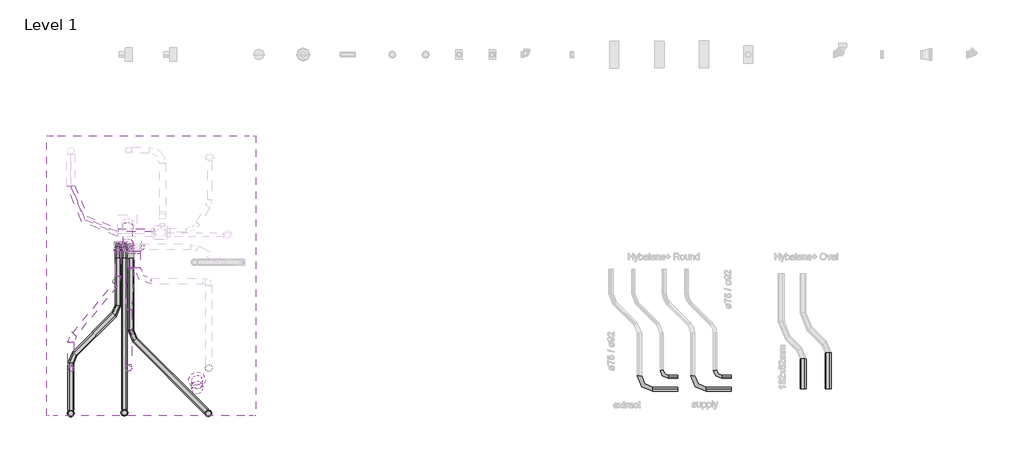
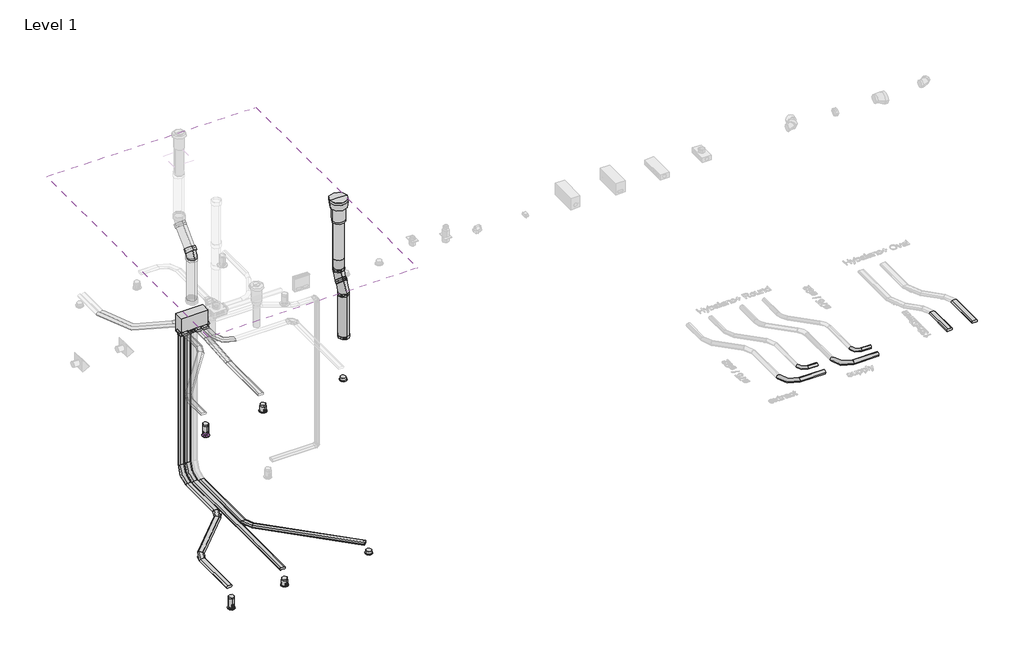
# One storey, part 1 of 5: 40 duct segments, 21 duct fittings, 7 air terminals, 2 coverings, 1 roof.
"""IFC4 building model written with IfcOpenShell, lengths in millimetres."""

from ifc_helpers import new_model, si_unit, point, frame, frame_2d, origin, place, context, project, spatial, polyline, circle_curve, trimmed, segment, composite_curve, outline, extrude, transform, mapped, element, save
from components import air_terminal_9fb1d9b7, air_terminal_ad92f96e, air_terminal_e25ee4aa, covering_845dcc57, duct_fitting_69f5a1d6, duct_fitting_80feda44, duct_fitting_766c4896, duct_fitting_af19edac, duct_fitting_93765f70, duct_fitting_1c3751d9, duct_fitting_ac704c44, duct_fitting_132x52_e1013fcc, duct_fitting_132x52_95183a23, duct_segment_69b1a090, duct_segment_885000f4, duct_segment_79d2183e, duct_segment_19c8db6e, duct_segment_10250bbd, duct_segment_4a810492, supply_132x52_blue_63ce6e41, supply_132x52_blue_f4b112b8, supply_132x52_blue_a913f8ed, supply_132x52_blue_7206dcc0, extract_132x52_red_0ccfaded

model = new_model("IFC4")

# Units and contexts
model_context = context("Model", 3, world=origin())
ifc_project = project(units=[si_unit("LENGTHUNIT", "METRE", prefix="MILLI")], contexts=[model_context])

# Site, building, storey
site = spatial("IfcSite", under=ifc_project)
building = spatial("IfcBuilding", under=site)
storey = spatial("IfcBuildingStorey", under=building, Name="Level 1", Elevation=0.0)

# Air terminals
placement = place(None, origin())
air_terminal_shape = air_terminal_9fb1d9b7(model_context)
element("IfcAirTerminal", 1, ObjectType="NLRS_57_AIR_WPB_supply air valve_M&G : Conus", at=placement, inside=storey, context=model_context, shape_type="MappedRepresentation", body=[
    mapped(air_terminal_shape, transform((-14618.4693878, -229.0662056, 3219.6345013), x_axis=(1.0, 0.0, 0.0), y_axis=(0.0, 1.0, 0.0), z_axis=(0.0, 0.0, 1.0))),
])
element("IfcAirTerminal", 2, ObjectType="NLRS_57_AIR_WPB_supply air valve_M&G : Conus", at=placement, inside=storey, context=model_context, shape_type="MappedRepresentation", body=[
    mapped(air_terminal_shape, transform((-16418.4693878, -229.0662056, 3105.7191817), x_axis=(1.0, 0.0, 0.0), y_axis=(0.0, 1.0, 0.0), z_axis=(0.0, 0.0, 1.0))),
])
element("IfcAirTerminal", 3, ObjectType="NLRS_57_AIR_WPB_supply air valve_M&G : Conus", at=placement, inside=storey, context=model_context, shape_type="MappedRepresentation", body=[
    mapped(air_terminal_shape, transform((-14625.2791551, -1245.5064382, -282.0), x_axis=(1.0, 0.0, 0.0), y_axis=(0.0, 1.0, 0.0), z_axis=(0.0, 0.0, 1.0))),
])
element("IfcAirTerminal", 4, ObjectType="NLRS_57_AIR_WPB_supply air valve_M&G : Conus", at=placement, inside=storey, context=model_context, shape_type="MappedRepresentation", body=[
    mapped(air_terminal_shape, transform((-16511.4693878, -1229.0662056, -388.9153196), x_axis=(1.0, 0.0, 0.0), y_axis=(0.0, 1.0, 0.0), z_axis=(0.0, 0.0, 1.0))),
])
air_terminal_2_shape = air_terminal_ad92f96e(model_context)
element("IfcAirTerminal", 5, ObjectType="NLRS_57_AIR_WPB_supply air valve_M&G : Conus", at=placement, inside=storey, context=model_context, shape_type="MappedRepresentation", body=[
    mapped(air_terminal_2_shape, transform((-17715.4983661, -245.8142705, 3028.0137664), x_axis=(1.0, 0.0, 0.0), y_axis=(0.0, 1.0, 0.0), z_axis=(0.0, 0.0, 1.0))),
])
element("IfcAirTerminal", 6, ObjectType="NLRS_57_AIR_WPB_supply air valve_M&G : Conus", at=placement, inside=storey, context=model_context, shape_type="MappedRepresentation", body=[
    mapped(air_terminal_2_shape, transform((-17715.4983661, -1245.8142705, -466.6207349), x_axis=(1.0, 0.0, 0.0), y_axis=(0.0, 1.0, 0.0), z_axis=(0.0, 0.0, 1.0))),
])
air_terminal_3_shape = air_terminal_e25ee4aa(model_context)
element("IfcAirTerminal", 7, ObjectType="NLRS_57_AIR_WPB_EASYAIR roof ventilation terminals_M&G : EPS Black, ø200 - L=1410mm", at=placement, inside=storey, context=model_context, shape_type="MappedRepresentation", body=[
    mapped(air_terminal_3_shape, transform((-14878.9974839, -500.7936517, 7296.7063814), x_axis=(-1.0, 0.0, 0.0), y_axis=(0.0, -1.0, 0.0), z_axis=(0.0, 0.0, 1.0))),
])

# Coverings
covering_shape = covering_845dcc57(model_context)
element("IfcCovering", 8, ObjectType="NLRS_57_DUF_UN_valve extension_M&G : L=40", at=placement, inside=storey, context=model_context, shape_type="MappedRepresentation", body=[
    mapped(covering_shape, transform((-17715.4983661, -1245.8142705, -506.6207349), x_axis=(1.0, 0.0, 0.0), y_axis=(0.0, 1.0, 0.0), z_axis=(0.0, 0.0, 1.0))),
])
element("IfcCovering", 9, ObjectType="NLRS_57_DUF_UN_valve extension_M&G : L=40", at=placement, inside=storey, context=model_context, shape_type="MappedRepresentation", body=[
    mapped(covering_shape, transform((-17715.4983661, -245.8142705, 2988.0137664), x_axis=(1.0, 0.0, 0.0), y_axis=(0.0, 1.0, 0.0), z_axis=(0.0, 0.0, 1.0))),
])

# Duct fittings
duct_fitting_shape = duct_fitting_69f5a1d6(model_context)
element("IfcDuctFitting", 10, ObjectType="NLRS_57_DUF_UN_air distribution manifold oval #14_M&G : 350#14 XL - DN180 (H=420)", at=placement, inside=storey, context=model_context, shape_type="MappedRepresentation", body=[
    mapped(duct_fitting_shape, transform((-16438.4693878, 2501.6938776, 3385.1345013), x_axis=(1.0, 0.0, 0.0), y_axis=(0.0, 1.0, 0.0), z_axis=(0.0, 0.0, 1.0))),
])
duct_fitting_2_shape = duct_fitting_80feda44(model_context)
element("IfcDuctFitting", 11, ObjectType="NLRS_57_DUF_UN_terminal extension_M&G : 117/125mm", at=placement, inside=storey, context=model_context, shape_type="MappedRepresentation", body=[
    mapped(duct_fitting_2_shape, transform((-16418.4693878, -229.0662056, 3105.7191817), x_axis=(0.0, 0.0, 1.0), y_axis=(0.0, -1.0, 0.0), z_axis=(1.0, 0.0, 0.0))),
])
element("IfcDuctFitting", 12, ObjectType="NLRS_57_DUF_UN_terminal extension_M&G : 117/125mm", at=placement, inside=storey, context=model_context, shape_type="MappedRepresentation", body=[
    mapped(duct_fitting_2_shape, transform((-16511.4693878, -1229.0662056, -388.9153196), x_axis=(0.0, 0.0, 1.0), y_axis=(0.0, -1.0, 0.0), z_axis=(1.0, 0.0, 0.0))),
])
duct_fitting_3_shape = duct_fitting_766c4896(model_context)
element("IfcDuctFitting", 13, ObjectType="NLRS_57_DUF_UN_terminal extension_M&G : 117/125mm", at=placement, inside=storey, context=model_context, shape_type="MappedRepresentation", body=[
    mapped(duct_fitting_3_shape, transform((-17715.4983661, -245.8142705, 3028.0137664), x_axis=(0.0, 0.0, 1.0), y_axis=(0.0, -1.0, 0.0), z_axis=(1.0, 0.0, 0.0))),
])
element("IfcDuctFitting", 14, ObjectType="NLRS_57_DUF_UN_terminal extension_M&G : 117/125mm", at=placement, inside=storey, context=model_context, shape_type="MappedRepresentation", body=[
    mapped(duct_fitting_3_shape, transform((-17715.4983661, -1245.8142705, -466.6207349), x_axis=(0.0, 0.0, 1.0), y_axis=(0.0, -1.0, 0.0), z_axis=(1.0, 0.0, 0.0))),
])
duct_fitting_4_shape = duct_fitting_af19edac(model_context)
element("IfcDuctFitting", 15, ObjectType="NLRS_57_DUF_UN_bend EPP_M&G : ø125 - ø180", at=placement, inside=storey, context=model_context, shape_type="MappedRepresentation", body=[
    mapped(duct_fitting_4_shape, transform((-16438.4693878, 2501.6938776, 5179.1345013), x_axis=(0.0, 0.0, 1.0), y_axis=(0.0, 1.0000000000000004, 0.0), z_axis=(-1.0000000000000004, 0.0, 0.0))),
])
duct_fitting_5_shape = duct_fitting_93765f70(model_context)
element("IfcDuctFitting", 16, ObjectType="NLRS_57_DUF_UN_bend EPS_M&G : ø125 - ø200", at=placement, inside=storey, context=model_context, shape_type="MappedRepresentation", body=[
    mapped(duct_fitting_5_shape, transform((-14878.9974839, -500.7936517, 5984.7063814), x_axis=(0.0, 0.0, -1.0), y_axis=(0.0, -1.0, 0.0), z_axis=(-1.0, 0.0, 0.0))),
])
element("IfcDuctFitting", 17, ObjectType="NLRS_57_DUF_UN_bend EPS_M&G : ø125 - ø200", at=placement, inside=storey, context=model_context, shape_type="MappedRepresentation", body=[
    mapped(duct_fitting_5_shape, transform((-14878.9974839, -700.197764, 5785.3022691), x_axis=(0.0, -0.7071067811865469, -0.7071067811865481), y_axis=(0.0, 0.7071067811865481, -0.7071067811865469), z_axis=(1.0, 0.0, 0.0))),
])
duct_fitting_6_shape = duct_fitting_1c3751d9(model_context)
element("IfcDuctFitting", 18, ObjectType="NLRS_57_DUF_UN_extension EPS_M&G : ø125 - ø200", at=placement, inside=storey, context=model_context, shape_type="MappedRepresentation", body=[
    mapped(duct_fitting_6_shape, transform((-14878.9974839, -700.197764, 5643.3022691), x_axis=(0.0, 0.0, -1.0), y_axis=(0.0, 1.0, 0.0), z_axis=(1.0, 0.0, 0.0))),
])
duct_fitting_7_shape = duct_fitting_ac704c44(model_context)
element("IfcDuctFitting", 19, ObjectType="NLRS_57_DUF_UN_extension EPS_M&G : ø125 - ø200", at=placement, inside=storey, context=model_context, shape_type="MappedRepresentation", body=[
    mapped(duct_fitting_7_shape, transform((-14878.9974839, -500.7936517, 6376.7063814), x_axis=(0.0, 0.0, -1.0), y_axis=(1.0, 0.0, 0.0), z_axis=(0.0, -1.0, 0.0))),
])
duct_fitting_132x52_shape = duct_fitting_132x52_e1013fcc(model_context)
element("IfcDuctFitting", 20, ObjectType="NLRS_57_DUF_UN_connection piece oval_M&G : 132x52", at=placement, inside=storey, context=model_context, shape_type="MappedRepresentation", body=[
    mapped(duct_fitting_132x52_shape, transform((-16219.4693878, 2395.6938776, 3440.6345013), x_axis=(0.0, -1.0, 0.0), y_axis=(1.0, 0.0, 0.0), z_axis=(0.0, 0.0, 1.0))),
])
element("IfcDuctFitting", 21, ObjectType="NLRS_57_DUF_UN_connection piece oval_M&G : 132x52", at=placement, inside=storey, context=model_context, shape_type="MappedRepresentation", body=[
    mapped(duct_fitting_132x52_shape, transform((-16365.4693878, 2396.1938776, 3440.6345013), x_axis=(0.0, -1.0, 0.0), y_axis=(1.0, 0.0, 0.0), z_axis=(0.0, 0.0, 1.0))),
])
element("IfcDuctFitting", 22, ObjectType="NLRS_57_DUF_UN_connection piece oval_M&G : 132x52", at=placement, inside=storey, context=model_context, shape_type="MappedRepresentation", body=[
    mapped(duct_fitting_132x52_shape, transform((-16657.4693878, 2396.1938776, 3440.6345013), x_axis=(0.0, -1.0, 0.0), y_axis=(1.0, 0.0, 0.0), z_axis=(0.0, 0.0, 1.0))),
])
element("IfcDuctFitting", 23, ObjectType="NLRS_57_DUF_UN_connection piece oval_M&G : 132x52", at=placement, inside=storey, context=model_context, shape_type="MappedRepresentation", body=[
    mapped(duct_fitting_132x52_shape, transform((-16137.4693878, 2501.6938776, 3440.6345013), x_axis=(1.0, 0.0, 0.0), y_axis=(0.0, 1.0, 0.0), z_axis=(0.0, 0.0, 1.0))),
])
element("IfcDuctFitting", 24, ObjectType="NLRS_57_DUF_UN_connection piece oval_M&G : 132x52", at=placement, inside=storey, context=model_context, shape_type="MappedRepresentation", body=[
    mapped(duct_fitting_132x52_shape, transform((-16657.4693878, 2541.6938776, 3384.1345013), x_axis=(0.0, 0.0, -1.0), y_axis=(1.0, 0.0, 0.0), z_axis=(0.0, -1.0, 0.0))),
])
element("IfcDuctFitting", 25, ObjectType="NLRS_57_DUF_UN_connection piece oval_M&G : 132x52", at=placement, inside=storey, context=model_context, shape_type="MappedRepresentation", body=[
    mapped(duct_fitting_132x52_shape, transform((-16511.4693878, 2541.6938776, 3384.1345013), x_axis=(0.0, 0.0, -1.0), y_axis=(1.0, 0.0, 0.0), z_axis=(0.0, -1.0, 0.0))),
])
element("IfcDuctFitting", 26, ObjectType="NLRS_57_DUF_UN_connection piece oval_M&G : 132x52", at=placement, inside=storey, context=model_context, shape_type="MappedRepresentation", body=[
    mapped(duct_fitting_132x52_shape, transform((-16365.4693878, 2541.6938776, 3384.1345013), x_axis=(0.0, 0.0, -1.0), y_axis=(1.0, 0.0, 0.0), z_axis=(0.0, -1.0, 0.0))),
])
duct_fitting_132x52_2_shape = duct_fitting_132x52_95183a23(model_context)
element("IfcDuctFitting", 27, ObjectType="NLRS_57_DUF_UN_dummy cap oval_M&G : 132x52", at=placement, inside=storey, context=model_context, shape_type="MappedRepresentation", body=[
    mapped(duct_fitting_132x52_2_shape, transform((-16511.4693878, 2396.1938776, 3440.6345013), x_axis=(0.0, -1.0, 0.0), y_axis=(1.0, 0.0, 0.0), z_axis=(0.0, 0.0, 1.0))),
])
element("IfcDuctFitting", 28, ObjectType="NLRS_57_DUF_UN_dummy cap oval_M&G : 132x52", at=placement, inside=storey, context=model_context, shape_type="MappedRepresentation", body=[
    mapped(duct_fitting_132x52_2_shape, transform((-16365.4693878, 2461.6938776, 3384.1345013), x_axis=(0.0, 0.0, -1.0), y_axis=(1.0, 0.0, 0.0), z_axis=(0.0, -1.0, 0.0))),
])
element("IfcDuctFitting", 29, ObjectType="NLRS_57_DUF_UN_dummy cap oval_M&G : 132x52", at=placement, inside=storey, context=model_context, shape_type="MappedRepresentation", body=[
    mapped(duct_fitting_132x52_2_shape, transform((-16511.4693878, 2461.6938776, 3384.1345013), x_axis=(0.0, 0.0, -1.0), y_axis=(1.0, 0.0, 0.0), z_axis=(0.0, -1.0, 0.0))),
])
element("IfcDuctFitting", 30, ObjectType="NLRS_57_DUF_UN_dummy cap oval_M&G : 132x52", at=placement, inside=storey, context=model_context, shape_type="MappedRepresentation", body=[
    mapped(duct_fitting_132x52_2_shape, transform((-16657.4693878, 2461.6938776, 3384.1345013), x_axis=(0.0, 0.0, -1.0), y_axis=(1.0, 0.0, 0.0), z_axis=(0.0, -1.0, 0.0))),
])

# Duct segments
element("IfcDuctSegment", 31, ObjectType="NLRS_57.40_DU_Hybalans supply_M&G", at=placement, inside=storey, context=model_context, shape_type="SweptSolid", body=[
    extrude(outline(composite_curve([segment(trimmed(circle_curve(frame_2d((3440.6345013, -16259.4693878)), 26.0), [point((3466.6345013, -16259.4693878))], [point((3440.6345013, -16285.4693878))], False, "CARTESIAN"), True, "CONTINUOUS"), segment(trimmed(circle_curve(frame_2d((3440.6345013, -16259.4693878)), 26.0), [point((3440.6345013, -16285.4693878))], [point((3414.6345013, -16259.4693878))], False, "CARTESIAN"), True, "CONTINUOUS"), segment(polyline([(3414.6345013, -16259.4693878), (3414.6345013, -16179.4693878)]), True, "CONTINUOUS"), segment(trimmed(circle_curve(frame_2d((3440.6345013, -16179.4693878)), 26.0), [point((3414.6345013, -16179.4693878))], [point((3440.6345013, -16153.4693878))], False, "CARTESIAN"), True, "CONTINUOUS"), segment(trimmed(circle_curve(frame_2d((3440.6345013, -16179.4693878)), 26.0), [point((3440.6345013, -16153.4693878))], [point((3466.6345013, -16179.4693878))], False, "CARTESIAN"), True, "CONTINUOUS"), segment(polyline([(3466.6345013, -16179.4693878), (3466.6345013, -16259.4693878)]), True, "CONTINUOUS")], self_intersect=False)), frame((0.0, 2027.9337944, 0.0), z_axis=(0.0, 1.0, 0.0), x_axis=(0.0, 0.0, 1.0)), (0.0, 0.0, 1.0), 367.7600831),
])
element("IfcDuctSegment", 32, ObjectType="NLRS_57.40_DU_Hybalans supply_M&G", at=placement, inside=storey, context=model_context, shape_type="SweptSolid", body=[
    extrude(outline(composite_curve([segment(trimmed(circle_curve(frame_2d((-40.0, -66.0)), 26.0), [point((-40.0, -92.0))], [point((-66.0, -66.0))], False, "CARTESIAN"), True, "CONTINUOUS"), segment(trimmed(circle_curve(frame_2d((-40.0, -66.0)), 26.0), [point((-66.0, -66.0))], [point((-40.0, -40.0))], False, "CARTESIAN"), True, "CONTINUOUS"), segment(polyline([(-40.0, -40.0), (40.0, -40.0)]), True, "CONTINUOUS"), segment(trimmed(circle_curve(frame_2d((40.0, -66.0)), 26.0), [point((40.0, -40.0))], [point((66.0, -66.0))], False, "CARTESIAN"), True, "CONTINUOUS"), segment(trimmed(circle_curve(frame_2d((40.0, -66.0)), 26.0), [point((66.0, -66.0))], [point((40.0, -92.0))], False, "CARTESIAN"), True, "CONTINUOUS"), segment(polyline([(40.0, -92.0), (-40.0, -92.0)]), True, "CONTINUOUS")], self_intersect=False)), frame((-16417.9806978, 1096.3310568, 3374.6345013), z_axis=(0.05705505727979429, 0.9983710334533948, 0.0), x_axis=(0.9983710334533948, -0.05705505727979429, 0.0)), (0.0, 0.0, 1.0), 911.7968249),
])
element("IfcDuctSegment", 33, ObjectType="NLRS_57.40_DU_Hybalans supply_M&G", at=placement, inside=storey, context=model_context, shape_type="SweptSolid", body=[
    extrude(outline(composite_curve([segment(trimmed(circle_curve(frame_2d((3440.6345013, -16405.4693878)), 26.0), [point((3466.6345013, -16405.4693878))], [point((3440.6345013, -16431.4693878))], False, "CARTESIAN"), True, "CONTINUOUS"), segment(trimmed(circle_curve(frame_2d((3440.6345013, -16405.4693878)), 26.0), [point((3440.6345013, -16431.4693878))], [point((3414.6345013, -16405.4693878))], False, "CARTESIAN"), True, "CONTINUOUS"), segment(polyline([(3414.6345013, -16405.4693878), (3414.6345013, -16325.4693878)]), True, "CONTINUOUS"), segment(trimmed(circle_curve(frame_2d((3440.6345013, -16325.4693878)), 26.0), [point((3414.6345013, -16325.4693878))], [point((3440.6345013, -16299.4693878))], False, "CARTESIAN"), True, "CONTINUOUS"), segment(trimmed(circle_curve(frame_2d((3440.6345013, -16325.4693878)), 26.0), [point((3440.6345013, -16299.4693878))], [point((3466.6345013, -16325.4693878))], False, "CARTESIAN"), True, "CONTINUOUS"), segment(polyline([(3466.6345013, -16325.4693878), (3466.6345013, -16405.4693878)]), True, "CONTINUOUS")], self_intersect=False)), frame((0.0, 2023.7591124, 0.0), z_axis=(0.0, 1.0, 0.0), x_axis=(0.0, 0.0, 1.0)), (0.0, 0.0, 1.0), 372.4347652),
])
element("IfcDuctSegment", 34, ObjectType="NLRS_57.40_DU_Hybalans supply_M&G", at=placement, inside=storey, context=model_context, shape_type="SweptSolid", body=[
    extrude(outline(composite_curve([segment(polyline([(3466.6345013, -16378.4693878), (3466.6345013, -16458.4693878)]), True, "CONTINUOUS"), segment(trimmed(circle_curve(frame_2d((3440.6345013, -16458.4693878)), 26.0), [point((3466.6345013, -16458.4693878))], [point((3440.6345013, -16484.4693878))], False, "CARTESIAN"), True, "CONTINUOUS"), segment(trimmed(circle_curve(frame_2d((3440.6345013, -16458.4693878)), 26.0), [point((3440.6345013, -16484.4693878))], [point((3414.6345013, -16458.4693878))], False, "CARTESIAN"), True, "CONTINUOUS"), segment(polyline([(3414.6345013, -16458.4693878), (3414.6345013, -16378.4693878)]), True, "CONTINUOUS"), segment(trimmed(circle_curve(frame_2d((3440.6345013, -16378.4693878)), 26.0), [point((3414.6345013, -16378.4693878))], [point((3440.6345013, -16352.4693878))], False, "CARTESIAN"), True, "CONTINUOUS"), segment(trimmed(circle_curve(frame_2d((3440.6345013, -16378.4693878)), 26.0), [point((3440.6345013, -16352.4693878))], [point((3466.6345013, -16378.4693878))], False, "CARTESIAN"), True, "CONTINUOUS")], self_intersect=False)), frame((0.0, -152.0662056, 0.0), z_axis=(0.0, 1.0, 0.0), x_axis=(0.0, 0.0, 1.0)), (0.0, 0.0, 1.0), 1231.2807452),
])
element("IfcDuctSegment", 35, ObjectType="NLRS_57.40_DU_Hybalans supply_M&G", at=placement, inside=storey, context=model_context, shape_type="SweptSolid", body=[
    extrude(outline(composite_curve([segment(trimmed(circle_curve(frame_2d((-40.0, -66.0)), 26.0), [point((-40.0, -92.0))], [point((-66.0000001, -66.0))], False, "CARTESIAN"), True, "CONTINUOUS"), segment(trimmed(circle_curve(frame_2d((-40.0, -66.0)), 26.0), [point((-66.0000001, -66.0))], [point((-40.0, -40.0))], False, "CARTESIAN"), True, "CONTINUOUS"), segment(polyline([(-40.0, -40.0), (40.0, -40.0)]), True, "CONTINUOUS"), segment(trimmed(circle_curve(frame_2d((40.0, -66.0)), 26.0), [point((40.0, -40.0))], [point((66.0, -66.0))], False, "CARTESIAN"), True, "CONTINUOUS"), segment(trimmed(circle_curve(frame_2d((40.0, -66.0)), 26.0), [point((66.0, -66.0))], [point((40.0, -92.0))], False, "CARTESIAN"), True, "CONTINUOUS"), segment(polyline([(40.0, -92.0), (-40.0, -92.0)]), True, "CONTINUOUS")], self_intersect=False)), frame((-17646.3461641, 541.7326879, 3374.6345013), z_axis=(0.6386556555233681, 0.7694926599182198, 0.0), x_axis=(0.7694926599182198, -0.6386556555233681, 0.0)), (0.0, 0.0, 1.0), 1440.0946212),
])
element("IfcDuctSegment", 36, ObjectType="NLRS_57.40_DU_Hybalans supply_M&G", at=placement, inside=storey, context=model_context, shape_type="SweptSolid", body=[
    extrude(outline(composite_curve([segment(polyline([(3466.6345013, -17675.4983661), (3466.6345013, -17755.4983661)]), True, "CONTINUOUS"), segment(trimmed(circle_curve(frame_2d((3440.6345013, -17755.4983661)), 26.0), [point((3466.6345013, -17755.4983661))], [point((3440.6345013, -17781.4983661))], False, "CARTESIAN"), True, "CONTINUOUS"), segment(trimmed(circle_curve(frame_2d((3440.6345013, -17755.4983661)), 26.0), [point((3440.6345013, -17781.4983661))], [point((3414.6345013, -17755.4983661))], False, "CARTESIAN"), True, "CONTINUOUS"), segment(polyline([(3414.6345013, -17755.4983661), (3414.6345013, -17675.4983661)]), True, "CONTINUOUS"), segment(trimmed(circle_curve(frame_2d((3440.6345013, -17675.4983661)), 26.0), [point((3414.6345013, -17675.4983661))], [point((3440.6345013, -17649.4983661))], False, "CARTESIAN"), True, "CONTINUOUS"), segment(trimmed(circle_curve(frame_2d((3440.6345013, -17675.4983661)), 26.0), [point((3440.6345013, -17649.4983661))], [point((3466.6345013, -17675.4983661))], False, "CARTESIAN"), True, "CONTINUOUS")], self_intersect=False)), frame((0.0, -168.8142705, 0.0), z_axis=(0.0, 1.0, 0.0), x_axis=(0.0, 0.0, 1.0)), (0.0, 0.0, 1.0), 518.9502617),
])
element("IfcDuctSegment", 37, ObjectType="NLRS_57.40_DU_Hybalans supply_M&G", at=placement, inside=storey, context=model_context, shape_type="SweptSolid", body=[
    extrude(outline(composite_curve([segment(trimmed(circle_curve(frame_2d((3440.6345013, -16697.4693878)), 26.0), [point((3466.6345013, -16697.4693878))], [point((3440.6345013, -16723.4693878))], False, "CARTESIAN"), True, "CONTINUOUS"), segment(trimmed(circle_curve(frame_2d((3440.6345013, -16697.4693878)), 26.0), [point((3440.6345013, -16723.4693878))], [point((3414.6345013, -16697.4693878))], False, "CARTESIAN"), True, "CONTINUOUS"), segment(polyline([(3414.6345013, -16697.4693878), (3414.6345013, -16617.4693878)]), True, "CONTINUOUS"), segment(trimmed(circle_curve(frame_2d((3440.6345013, -16617.4693878)), 26.0), [point((3414.6345013, -16617.4693878))], [point((3440.6345013, -16591.4693878))], False, "CARTESIAN"), True, "CONTINUOUS"), segment(trimmed(circle_curve(frame_2d((3440.6345013, -16617.4693878)), 26.0), [point((3440.6345013, -16591.4693878))], [point((3466.6345013, -16617.4693878))], False, "CARTESIAN"), True, "CONTINUOUS"), segment(polyline([(3466.6345013, -16617.4693878), (3466.6345013, -16697.4693878)]), True, "CONTINUOUS")], self_intersect=False)), frame((0.0, 1841.4716252, 0.0), z_axis=(0.0, 1.0, 0.0), x_axis=(0.0, 0.0, 1.0)), (0.0, 0.0, 1.0), 554.7222524),
])
element("IfcDuctSegment", 38, ObjectType="NLRS_57.40_DU_Hybalans supply_M&G", at=placement, inside=storey, context=model_context, shape_type="SweptSolid", body=[
    extrude(outline(composite_curve([segment(trimmed(circle_curve(frame_2d((-16617.4693878, 2541.6938776)), 26.0), [point((-16617.4693878, 2567.6938776))], [point((-16591.4693878, 2541.6938776))], False, "CARTESIAN"), True, "CONTINUOUS"), segment(trimmed(circle_curve(frame_2d((-16617.4693878, 2541.6938776)), 26.0), [point((-16591.4693878, 2541.6938776))], [point((-16617.4693878, 2515.6938776))], False, "CARTESIAN"), True, "CONTINUOUS"), segment(polyline([(-16617.4693878, 2515.6938776), (-16697.4693878, 2515.6938776)]), True, "CONTINUOUS"), segment(trimmed(circle_curve(frame_2d((-16697.4693878, 2541.6938776)), 26.0), [point((-16697.4693878, 2515.6938776))], [point((-16723.4693878, 2541.6938776))], False, "CARTESIAN"), True, "CONTINUOUS"), segment(trimmed(circle_curve(frame_2d((-16697.4693878, 2541.6938776)), 26.0), [point((-16723.4693878, 2541.6938776))], [point((-16697.4693878, 2567.6938776))], False, "CARTESIAN"), True, "CONTINUOUS"), segment(polyline([(-16697.4693878, 2567.6938776), (-16617.4693878, 2567.6938776)]), True, "CONTINUOUS")], self_intersect=False)), frame((0.0, 0.0, 246.0), z_axis=(0.0, 0.0, 1.0), x_axis=(1.0, 0.0, 0.0)), (0.0, 0.0, 1.0), 3138.1345013),
])
element("IfcDuctSegment", 39, ObjectType="NLRS_57.40_DU_Hybalans supply_M&G", at=placement, inside=storey, context=model_context, shape_type="SweptSolid", body=[
    extrude(outline(composite_curve([segment(polyline([(-28.0, -17675.4983661), (-28.0, -17755.4983661)]), True, "CONTINUOUS"), segment(trimmed(circle_curve(frame_2d((-54.0, -17755.4983661)), 26.0), [point((-28.0, -17755.4983661))], [point((-54.0, -17781.4983661))], False, "CARTESIAN"), True, "CONTINUOUS"), segment(trimmed(circle_curve(frame_2d((-54.0, -17755.4983661)), 26.0), [point((-54.0, -17781.4983661))], [point((-80.0, -17755.4983661))], False, "CARTESIAN"), True, "CONTINUOUS"), segment(polyline([(-80.0, -17755.4983661), (-80.0, -17675.4983661)]), True, "CONTINUOUS"), segment(trimmed(circle_curve(frame_2d((-54.0, -17675.4983661)), 26.0), [point((-80.0, -17675.4983661))], [point((-54.0, -17649.4983661))], False, "CARTESIAN"), True, "CONTINUOUS"), segment(trimmed(circle_curve(frame_2d((-54.0, -17675.4983661)), 26.0), [point((-54.0, -17649.4983661))], [point((-28.0, -17675.4983661))], False, "CARTESIAN"), True, "CONTINUOUS")], self_intersect=False)), frame((0.0, -1168.8142705, 0.0), z_axis=(0.0, 1.0, 0.0), x_axis=(0.0, 0.0, 1.0)), (0.0, 0.0, 1.0), 1051.9755161),
])
element("IfcDuctSegment", 40, ObjectType="NLRS_57.40_DU_Hybalans supply_M&G", at=placement, inside=storey, context=model_context, shape_type="SweptSolid", body=[
    extrude(outline(composite_curve([segment(polyline([(40.0, 40.0), (-40.0, 40.0)]), True, "CONTINUOUS"), segment(trimmed(circle_curve(frame_2d((-40.0, 66.0)), 26.0), [point((-40.0, 40.0))], [point((-66.0, 66.0))], False, "CARTESIAN"), True, "CONTINUOUS"), segment(trimmed(circle_curve(frame_2d((-40.0, 66.0)), 26.0), [point((-66.0, 66.0))], [point((-40.0, 92.0))], False, "CARTESIAN"), True, "CONTINUOUS"), segment(polyline([(-40.0, 92.0), (40.0, 92.0)]), True, "CONTINUOUS"), segment(trimmed(circle_curve(frame_2d((40.0, 66.0)), 26.0), [point((40.0, 92.0))], [point((66.0000001, 66.0))], False, "CARTESIAN"), True, "CONTINUOUS"), segment(trimmed(circle_curve(frame_2d((40.0, 66.0)), 26.0), [point((66.0000001, 66.0))], [point((40.0, 40.0))], False, "CARTESIAN"), True, "CONTINUOUS")], self_intersect=False)), frame((-17627.6304005, 95.29328, 12.0), z_axis=(0.7071067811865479, 0.7071067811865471, 0.0), x_axis=(0.7071067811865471, -0.7071067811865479, 0.0)), (0.0, 0.0, 1.0), 1247.7507932),
])
element("IfcDuctSegment", 41, ObjectType="NLRS_57.40_DU_Hybalans supply_M&G", at=placement, inside=storey, context=model_context, shape_type="SweptSolid", body=[
    extrude(outline(composite_curve([segment(polyline([(-28.0, -16617.4693878), (-28.0, -16697.4693878)]), True, "CONTINUOUS"), segment(trimmed(circle_curve(frame_2d((-54.0, -16697.4693878)), 26.0), [point((-28.0, -16697.4693878))], [point((-54.0, -16723.4693878))], False, "CARTESIAN"), True, "CONTINUOUS"), segment(trimmed(circle_curve(frame_2d((-54.0, -16697.4693878)), 26.0), [point((-54.0, -16723.4693878))], [point((-80.0, -16697.4693878))], False, "CARTESIAN"), True, "CONTINUOUS"), segment(polyline([(-80.0, -16697.4693878), (-80.0, -16617.4693878)]), True, "CONTINUOUS"), segment(trimmed(circle_curve(frame_2d((-54.0, -16617.4693878)), 26.0), [point((-80.0, -16617.4693878))], [point((-54.0, -16591.4693878))], False, "CARTESIAN"), True, "CONTINUOUS"), segment(trimmed(circle_curve(frame_2d((-54.0, -16617.4693878)), 26.0), [point((-54.0, -16591.4693878))], [point((-28.0, -16617.4693878))], False, "CARTESIAN"), True, "CONTINUOUS")], self_intersect=False)), frame((0.0, 1189.7183614, 0.0), z_axis=(0.0, 1.0, 0.0), x_axis=(0.0, 0.0, 1.0)), (0.0, 0.0, 1.0), 1051.9755161),
])
element("IfcDuctSegment", 42, ObjectType="NLRS_57.40_DU_Hybalans supply_M&G", at=placement, inside=storey, context=model_context, shape_type="SweptSolid", body=[
    extrude(outline(composite_curve([segment(trimmed(circle_curve(frame_2d((-54.0, -16551.4693878)), 26.0), [point((-28.0, -16551.4693878))], [point((-54.0, -16577.4693878))], False, "CARTESIAN"), True, "CONTINUOUS"), segment(trimmed(circle_curve(frame_2d((-54.0, -16551.4693878)), 26.0), [point((-54.0, -16577.4693878))], [point((-80.0, -16551.4693878))], False, "CARTESIAN"), True, "CONTINUOUS"), segment(polyline([(-80.0, -16551.4693878), (-80.0, -16471.4693878)]), True, "CONTINUOUS"), segment(trimmed(circle_curve(frame_2d((-54.0, -16471.4693878)), 26.0), [point((-80.0, -16471.4693878))], [point((-54.0, -16445.4693878))], False, "CARTESIAN"), True, "CONTINUOUS"), segment(trimmed(circle_curve(frame_2d((-54.0, -16471.4693878)), 26.0), [point((-54.0, -16445.4693878))], [point((-28.0, -16471.4693878))], False, "CARTESIAN"), True, "CONTINUOUS"), segment(polyline([(-28.0, -16471.4693878), (-28.0, -16551.4693878)]), True, "CONTINUOUS")], self_intersect=False)), frame((0.0, -1152.0662056, 0.0), z_axis=(0.0, 1.0, 0.0), x_axis=(0.0, 0.0, 1.0)), (0.0, 0.0, 1.0), 3393.7600831),
])
element("IfcDuctSegment", 43, ObjectType="NLRS_57.40_DU_Hybalans supply_M&G", at=placement, inside=storey, context=model_context, shape_type="SweptSolid", body=[
    extrude(outline(composite_curve([segment(trimmed(circle_curve(frame_2d((-16471.4693878, 2541.6938776)), 26.0), [point((-16471.4693878, 2567.6938776))], [point((-16445.4693878, 2541.6938776))], False, "CARTESIAN"), True, "CONTINUOUS"), segment(trimmed(circle_curve(frame_2d((-16471.4693878, 2541.6938776)), 26.0), [point((-16445.4693878, 2541.6938776))], [point((-16471.4693878, 2515.6938776))], False, "CARTESIAN"), True, "CONTINUOUS"), segment(polyline([(-16471.4693878, 2515.6938776), (-16551.4693878, 2515.6938776)]), True, "CONTINUOUS"), segment(trimmed(circle_curve(frame_2d((-16551.4693878, 2541.6938776)), 26.0), [point((-16551.4693878, 2515.6938776))], [point((-16577.4693878, 2541.6938776))], False, "CARTESIAN"), True, "CONTINUOUS"), segment(trimmed(circle_curve(frame_2d((-16551.4693878, 2541.6938776)), 26.0), [point((-16577.4693878, 2541.6938776))], [point((-16551.4693878, 2567.6938776))], False, "CARTESIAN"), True, "CONTINUOUS"), segment(polyline([(-16551.4693878, 2567.6938776), (-16471.4693878, 2567.6938776)]), True, "CONTINUOUS")], self_intersect=False)), frame((0.0, 0.0, 246.0), z_axis=(0.0, 0.0, 1.0), x_axis=(1.0, 0.0, 0.0)), (0.0, 0.0, 1.0), 3138.1345013),
])
element("IfcDuctSegment", 44, ObjectType="NLRS_57.20_DU_Hybalans extract_M&G", at=placement, inside=storey, context=model_context, shape_type="SweptSolid", body=[
    extrude(outline(composite_curve([segment(trimmed(circle_curve(frame_2d((2870.7568536, 3393.5)), 37.5), [point((2833.2568536, 3393.5))], [point((2870.7568536, 3431.0))], False, "CARTESIAN"), True, "CONTINUOUS"), segment(trimmed(circle_curve(frame_2d((2870.7568536, 3393.5)), 37.5), [point((2870.7568536, 3431.0))], [point((2908.2568536, 3393.5))], False, "CARTESIAN"), True, "CONTINUOUS"), segment(trimmed(circle_curve(frame_2d((2870.7568536, 3393.5)), 37.5), [point((2908.2568536, 3393.5))], [point((2870.7568536, 3356.0))], False, "CARTESIAN"), True, "CONTINUOUS"), segment(trimmed(circle_curve(frame_2d((2870.7568536, 3393.5)), 37.5), [point((2870.7568536, 3356.0))], [point((2833.2568536, 3393.5))], False, "CARTESIAN"), True, "CONTINUOUS")], self_intersect=False)), frame((-16665.4983661, 0.0, 0.0), z_axis=(1.0, 0.0, 0.0), x_axis=(0.0, 1.0, 0.0)), (0.0, 0.0, 1.0), 806.5180367),
])
element("IfcDuctSegment", 45, ObjectType="NLRS_57.40_DU_Hybalans supply_M&G", at=placement, inside=storey, context=model_context, shape_type="SweptSolid", body=[
    extrude(outline(composite_curve([segment(trimmed(circle_curve(frame_2d((-61.0, -16405.4693878)), 26.0), [point((-35.0, -16405.4693878))], [point((-61.0, -16431.4693878))], False, "CARTESIAN"), True, "CONTINUOUS"), segment(trimmed(circle_curve(frame_2d((-61.0, -16405.4693878)), 26.0), [point((-61.0, -16431.4693878))], [point((-87.0, -16405.4693878))], False, "CARTESIAN"), True, "CONTINUOUS"), segment(polyline([(-87.0, -16405.4693878), (-87.0, -16325.4693878)]), True, "CONTINUOUS"), segment(trimmed(circle_curve(frame_2d((-61.0, -16325.4693878)), 26.0), [point((-87.0, -16325.4693878))], [point((-61.0, -16299.4693878))], False, "CARTESIAN"), True, "CONTINUOUS"), segment(trimmed(circle_curve(frame_2d((-61.0, -16325.4693878)), 26.0), [point((-61.0, -16299.4693878))], [point((-35.0, -16325.4693878))], False, "CARTESIAN"), True, "CONTINUOUS"), segment(polyline([(-35.0, -16325.4693878), (-35.0, -16405.4693878)]), True, "CONTINUOUS")], self_intersect=False)), frame((0.0, 618.9478632, 0.0), z_axis=(0.0, 1.0, 0.0), x_axis=(0.0, 0.0, 1.0)), (0.0, 0.0, 1.0), 1622.7460144),
])
element("IfcDuctSegment", 46, ObjectType="NLRS_57.40_DU_Hybalans supply_M&G", at=placement, inside=storey, context=model_context, shape_type="SweptSolid", body=[
    extrude(outline(composite_curve([segment(trimmed(circle_curve(frame_2d((-40.0, -66.0)), 26.0), [point((-40.0, -92.0))], [point((-66.0, -66.0))], False, "CARTESIAN"), True, "CONTINUOUS"), segment(trimmed(circle_curve(frame_2d((-40.0, -66.0)), 26.0), [point((-66.0, -66.0))], [point((-40.0, -40.0))], False, "CARTESIAN"), True, "CONTINUOUS"), segment(polyline([(-40.0, -40.0), (40.0, -40.0)]), True, "CONTINUOUS"), segment(trimmed(circle_curve(frame_2d((40.0, -66.0)), 26.0), [point((40.0, -40.0))], [point((66.0, -66.0))], False, "CARTESIAN"), True, "CONTINUOUS"), segment(trimmed(circle_curve(frame_2d((40.0, -66.0)), 26.0), [point((66.0, -66.0))], [point((40.0, -92.0))], False, "CARTESIAN"), True, "CONTINUOUS"), segment(polyline([(40.0, -92.0), (-40.0, -92.0)]), True, "CONTINUOUS")], self_intersect=False)), frame((-14679.7263772, -1191.0592161, -127.0), z_axis=(-0.707106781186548, 0.7071067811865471, 0.0), x_axis=(0.7071067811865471, 0.707106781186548, 0.0)), (0.0, 0.0, 1.0), 2259.7365594),
])
element("IfcDuctSegment", 47, ObjectType="NLRS_57.20_DU_Hybalans extract_M&G", at=placement, inside=storey, context=model_context, shape_type="SweptSolid", body=[
    extrude(outline(composite_curve([segment(trimmed(circle_curve(frame_2d((0.0, -1301.0547462)), 26.0), [point((26.0, -1301.0547462))], [point((0.0, -1327.0547462))], False, "CARTESIAN"), True, "CONTINUOUS"), segment(trimmed(circle_curve(frame_2d((0.0, -1301.0547462)), 26.0), [point((0.0, -1327.0547462))], [point((-26.0, -1301.0547462))], False, "CARTESIAN"), True, "CONTINUOUS"), segment(polyline([(-26.0, -1301.0547462), (-26.0, -1221.0547462)]), True, "CONTINUOUS"), segment(trimmed(circle_curve(frame_2d((0.0, -1221.0547462)), 26.0), [point((-26.0, -1221.0547462))], [point((0.0, -1195.0547462))], False, "CARTESIAN"), True, "CONTINUOUS"), segment(trimmed(circle_curve(frame_2d((0.0, -1221.0547462)), 26.0), [point((0.0, -1195.0547462))], [point((26.0, -1221.0547462))], False, "CARTESIAN"), True, "CONTINUOUS"), segment(polyline([(26.0, -1221.0547462), (26.0, -1301.0547462)]), True, "CONTINUOUS")], self_intersect=False)), frame((0.0, -690.8510505, 0.0), z_axis=(0.0, 1.0, 0.0), x_axis=(0.0, 0.0, 1.0)), (0.0, 0.0, 1.0), 675.7359313),
])
element("IfcDuctSegment", 48, ObjectType="NLRS_57.40_DU_Hybalans supply_M&G", at=placement, inside=storey, context=model_context, shape_type="SweptSolid", body=[
    extrude(outline(composite_curve([segment(trimmed(circle_curve(frame_2d((0.0, -739.0865776)), 26.0), [point((26.0, -739.0865776))], [point((0.0, -765.0865776))], False, "CARTESIAN"), True, "CONTINUOUS"), segment(trimmed(circle_curve(frame_2d((0.0, -739.0865776)), 26.0), [point((0.0, -765.0865776))], [point((-26.0, -739.0865776))], False, "CARTESIAN"), True, "CONTINUOUS"), segment(polyline([(-26.0, -739.0865776), (-26.0, -659.0865776)]), True, "CONTINUOUS"), segment(trimmed(circle_curve(frame_2d((0.0, -659.0865776)), 26.0), [point((-26.0, -659.0865776))], [point((0.0, -633.0865776))], False, "CARTESIAN"), True, "CONTINUOUS"), segment(trimmed(circle_curve(frame_2d((0.0, -659.0865776)), 26.0), [point((0.0, -633.0865776))], [point((26.0, -659.0865776))], False, "CARTESIAN"), True, "CONTINUOUS"), segment(polyline([(26.0, -659.0865776), (26.0, -739.0865776)]), True, "CONTINUOUS")], self_intersect=False)), frame((0.0, -690.8510505, 0.0), z_axis=(0.0, 1.0, 0.0), x_axis=(0.0, 0.0, 1.0)), (0.0, 0.0, 1.0), 805.0252532),
])
element("IfcDuctSegment", 49, ObjectType="NLRS_57.40_DU_Hybalans supply_M&G", at=placement, inside=storey, context=model_context, shape_type="SweptSolid", body=[
    extrude(outline(composite_curve([segment(trimmed(circle_curve(frame_2d((-703.733097, 0.0)), 46.0), [point((-749.733097, 0.0))], [point((-703.733097, 46.0))], False, "CARTESIAN"), True, "CONTINUOUS"), segment(trimmed(circle_curve(frame_2d((-703.733097, 0.0)), 46.0), [point((-703.733097, 46.0))], [point((-657.733097, 0.0))], False, "CARTESIAN"), True, "CONTINUOUS"), segment(trimmed(circle_curve(frame_2d((-703.733097, 0.0)), 46.0), [point((-657.733097, 0.0))], [point((-703.733097, -46.0))], False, "CARTESIAN"), True, "CONTINUOUS"), segment(trimmed(circle_curve(frame_2d((-703.733097, 0.0)), 46.0), [point((-703.733097, -46.0))], [point((-749.733097, 0.0))], False, "CARTESIAN"), True, "CONTINUOUS")], self_intersect=False)), frame((-3439.7125117, 0.0, 0.0), z_axis=(1.0, 0.0, 0.0), x_axis=(0.0, 1.0, 0.0)), (0.0, 0.0, 1.0), 560.0),
])
element("IfcDuctSegment", 50, ObjectType="NLRS_57.20_DU_Hybalans extract_M&G", at=placement, inside=storey, context=model_context, shape_type="SweptSolid", body=[
    extrude(outline(composite_curve([segment(trimmed(circle_curve(frame_2d((-421.151183, 0.0)), 37.5), [point((-383.651183, 0.0))], [point((-421.151183, -37.5))], False, "CARTESIAN"), True, "CONTINUOUS"), segment(trimmed(circle_curve(frame_2d((-421.151183, 0.0)), 37.5), [point((-421.151183, -37.5))], [point((-458.651183, 0.0))], False, "CARTESIAN"), True, "CONTINUOUS"), segment(trimmed(circle_curve(frame_2d((-421.151183, 0.0)), 37.5), [point((-458.651183, 0.0))], [point((-421.151183, 37.5))], False, "CARTESIAN"), True, "CONTINUOUS"), segment(trimmed(circle_curve(frame_2d((-421.151183, 0.0)), 37.5), [point((-421.151183, 37.5))], [point((-383.651183, 0.0))], False, "CARTESIAN"), True, "CONTINUOUS")], self_intersect=False)), frame((-4289.7125117, 0.0, 0.0), z_axis=(1.0, 0.0, 0.0), x_axis=(0.0, 1.0, 0.0)), (0.0, 0.0, 1.0), 210.0),
])
element("IfcDuctSegment", 51, ObjectType="NLRS_57.20_DU_Hybalans extract_M&G", at=placement, inside=storey, context=model_context, shape_type="SweptSolid", body=[
    extrude(outline(composite_curve([segment(trimmed(circle_curve(frame_2d((-703.733097, 0.0)), 46.0), [point((-657.733097, 0.0))], [point((-703.733097, -46.0))], False, "CARTESIAN"), True, "CONTINUOUS"), segment(trimmed(circle_curve(frame_2d((-703.733097, 0.0)), 46.0), [point((-703.733097, -46.0))], [point((-749.733097, 0.0))], False, "CARTESIAN"), True, "CONTINUOUS"), segment(trimmed(circle_curve(frame_2d((-703.733097, 0.0)), 46.0), [point((-749.733097, 0.0))], [point((-703.733097, 46.0))], False, "CARTESIAN"), True, "CONTINUOUS"), segment(trimmed(circle_curve(frame_2d((-703.733097, 0.0)), 46.0), [point((-703.733097, 46.0))], [point((-657.733097, 0.0))], False, "CARTESIAN"), True, "CONTINUOUS")], self_intersect=False)), frame((-4639.7125117, 0.0, 0.0), z_axis=(1.0, 0.0, 0.0), x_axis=(0.0, 1.0, 0.0)), (0.0, 0.0, 1.0), 560.0),
])
element("IfcDuctSegment", 52, ObjectType="NLRS_57.40_DU_Hybalans supply_M&G", at=placement, inside=storey, context=model_context, shape_type="SweptSolid", body=[
    extrude(outline(composite_curve([segment(trimmed(circle_curve(frame_2d((-421.151183, 0.0)), 37.5), [point((-383.651183, 0.0))], [point((-421.151183, -37.5))], False, "CARTESIAN"), True, "CONTINUOUS"), segment(trimmed(circle_curve(frame_2d((-421.151183, 0.0)), 37.5), [point((-421.151183, -37.5))], [point((-458.651183, 0.0))], False, "CARTESIAN"), True, "CONTINUOUS"), segment(trimmed(circle_curve(frame_2d((-421.151183, 0.0)), 37.5), [point((-458.651183, 0.0))], [point((-421.151183, 37.5))], False, "CARTESIAN"), True, "CONTINUOUS"), segment(trimmed(circle_curve(frame_2d((-421.151183, 0.0)), 37.5), [point((-421.151183, 37.5))], [point((-383.651183, 0.0))], False, "CARTESIAN"), True, "CONTINUOUS")], self_intersect=False)), frame((-3089.7125117, 0.0, 0.0), z_axis=(1.0, 0.0, 0.0), x_axis=(0.0, 1.0, 0.0)), (0.0, 0.0, 1.0), 210.0),
])
duct_segment_shape = duct_segment_69b1a090(model_context)
element("IfcDuctSegment", 53, ObjectType="NLRS_57_DUF_UN_duct EPP_M&G : ø125 - ø180", at=placement, inside=storey, context=model_context, shape_type="MappedRepresentation", body=[
    mapped(duct_segment_shape, transform((-16438.4693878, 2501.6938776, 4085.1345013), x_axis=(0.0, 0.0, 1.0), y_axis=(0.0, -1.0, 0.0), z_axis=(1.0, 0.0, 0.0))),
])
duct_segment_2_shape = duct_segment_885000f4(model_context)
element("IfcDuctSegment", 54, ObjectType="NLRS_57_DUF_UN_duct EPP_M&G : ø125 - ø180", at=placement, inside=storey, context=model_context, shape_type="MappedRepresentation", body=[
    mapped(duct_segment_2_shape, transform((-16438.4693878, 2567.4548082, 5244.8954319), x_axis=(0.0, 0.7071067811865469, 0.7071067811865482), y_axis=(0.0, 0.7071067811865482, -0.7071067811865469), z_axis=(-1.0, 0.0, 0.0))),
])
duct_segment_3_shape = duct_segment_79d2183e(model_context)
element("IfcDuctSegment", 55, ObjectType="NLRS_57_DUF_UN_Hybalans flexbend round_M&G : extract ø75 ø92 (red)", at=placement, inside=storey, context=model_context, shape_type="MappedRepresentation", body=[
    mapped(duct_segment_3_shape, transform((-17765.4983661, 2765.7568536, 3393.5), x_axis=(0.0, -0.9999999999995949, 9.00202722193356e-07), y_axis=(1.0000000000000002, 0.0, 0.0), z_axis=(0.0, 9.00202722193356e-07, 0.9999999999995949))),
])
duct_segment_4_shape = duct_segment_19c8db6e(model_context)
element("IfcDuctSegment", 56, ObjectType="NLRS_57_DUF_UN_Hybalans flexbend round_M&G : extract ø75 ø92 (red)", at=placement, inside=storey, context=model_context, shape_type="MappedRepresentation", body=[
    mapped(duct_segment_4_shape, transform((-17665.4983661, 2870.7568536, 3393.5), x_axis=(0.0, -0.9999999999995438, 9.551647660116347e-07), y_axis=(1.0, 0.0, 0.0), z_axis=(0.0, 9.551647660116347e-07, 0.9999999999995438))),
])
duct_segment_5_shape = duct_segment_10250bbd(model_context)
element("IfcDuctSegment", 57, ObjectType="NLRS_57_DUF_UN_Hybalans flexbend round_M&G : supply ø75 ø92 (blue)", at=placement, inside=storey, context=model_context, shape_type="MappedRepresentation", body=[
    mapped(duct_segment_5_shape, transform((-3739.7125117, -703.733097, 0.0), x_axis=(0.0, -1.0, 0.0), y_axis=(1.0, 0.0, 0.0), z_axis=(0.0, 0.0, 1.0))),
])
duct_segment_6_shape = duct_segment_4a810492(model_context)
element("IfcDuctSegment", 58, ObjectType="NLRS_57_DUF_UN_Hybalans flexbend round_M&G : extract ø75 ø92 (red)", at=placement, inside=storey, context=model_context, shape_type="MappedRepresentation", body=[
    mapped(duct_segment_6_shape, transform((-4439.7125117, -421.151183, 0.0), x_axis=(0.0, -1.0, 0.0), y_axis=(1.0, 0.0, 0.0), z_axis=(0.0, 0.0, 1.0))),
])
element("IfcDuctSegment", 59, ObjectType="NLRS_57_DUF_UN_Hybalans flexbend round_M&G : extract ø75 ø92 (red)", at=placement, inside=storey, context=model_context, shape_type="MappedRepresentation", body=[
    mapped(duct_segment_5_shape, transform((-4939.7125117, -703.733097, 0.0), x_axis=(0.0, -1.0, 0.0), y_axis=(1.0, 0.0, 0.0), z_axis=(0.0, 0.0, 1.0))),
])
element("IfcDuctSegment", 60, ObjectType="NLRS_57_DUF_UN_Hybalans flexbend round_M&G : supply ø75 ø92 (blue)", at=placement, inside=storey, context=model_context, shape_type="MappedRepresentation", body=[
    mapped(duct_segment_6_shape, transform((-3239.7125117, -421.151183, 0.0), x_axis=(0.0, -1.0, 0.0), y_axis=(1.0, 0.0, 0.0), z_axis=(0.0, 0.0, 1.0))),
])
supply_132x52_blue_shape = supply_132x52_blue_63ce6e41(model_context)
element("IfcDuctSegment", 61, ObjectType="NLRS_57_DUF_UN_Hybalans flexbend oval_M&G : supply 132x52 (blue)", at=placement, inside=storey, context=model_context, shape_type="MappedRepresentation", body=[
    mapped(supply_132x52_blue_shape, transform((-16365.4693878, 2015.1938776, 3440.6345013), x_axis=(0.057055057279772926, 0.998371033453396, 0.0), y_axis=(-0.998371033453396, 0.057055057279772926, 0.0), z_axis=(0.0, 0.0, 1.0))),
])
element("IfcDuctSegment", 62, ObjectType="NLRS_57_DUF_UN_Hybalans flexbend oval_M&G : supply 132x52 (blue)", at=placement, inside=storey, context=model_context, shape_type="MappedRepresentation", body=[
    mapped(supply_132x52_blue_shape, transform((-16418.4693878, 1087.7797745, 3440.6345013), x_axis=(-0.05705505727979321, -0.9983710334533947, 0.0), y_axis=(0.9983710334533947, -0.05705505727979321, 0.0), z_axis=(0.0, 0.0, 1.0))),
])
supply_132x52_blue_2_shape = supply_132x52_blue_f4b112b8(model_context)
element("IfcDuctSegment", 63, ObjectType="NLRS_57_DUF_UN_Hybalans flexbend oval_M&G : supply 132x52 (blue)", at=placement, inside=storey, context=model_context, shape_type="MappedRepresentation", body=[
    mapped(supply_132x52_blue_2_shape, transform((-16657.4693878, 1733.193868, 3440.6345013), x_axis=(0.6386556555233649, 0.7694926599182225, 0.0), y_axis=(-0.7694926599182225, 0.6386556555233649, 0.0), z_axis=(0.0, 0.0, 1.0))),
])
element("IfcDuctSegment", 64, ObjectType="NLRS_57_DUF_UN_Hybalans flexbend oval_M&G : supply 132x52 (blue)", at=placement, inside=storey, context=model_context, shape_type="MappedRepresentation", body=[
    mapped(supply_132x52_blue_2_shape, transform((-17715.4983661, 458.4137485, 3440.6345013), x_axis=(-0.6386556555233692, -0.7694926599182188, 0.0), y_axis=(0.7694926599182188, -0.6386556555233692, 0.0), z_axis=(0.0, 0.0, 1.0))),
])
supply_132x52_blue_3_shape = supply_132x52_blue_a913f8ed(model_context)
element("IfcDuctSegment", 65, ObjectType="NLRS_57_DUF_UN_Hybalans flexbend oval_M&G : supply 132x52 (blue)", at=placement, inside=storey, context=model_context, shape_type="MappedRepresentation", body=[
    mapped(supply_132x52_blue_3_shape, transform((-16657.4693878, 2541.6938776, -54.0), x_axis=(0.0, 0.0, -1.0), y_axis=(0.0, -1.0, 0.0), z_axis=(-1.0, 0.0, 0.0))),
])
element("IfcDuctSegment", 66, ObjectType="NLRS_57_DUF_UN_Hybalans flexbend oval_M&G : supply 132x52 (blue)", at=placement, inside=storey, context=model_context, shape_type="MappedRepresentation", body=[
    mapped(supply_132x52_blue_3_shape, transform((-16511.4693878, 2541.6938776, -54.0), x_axis=(0.0, 0.0, -1.0), y_axis=(0.0, -1.0, 0.0), z_axis=(-1.0, 0.0, 0.0))),
])
supply_132x52_blue_4_shape = supply_132x52_blue_7206dcc0(model_context)
element("IfcDuctSegment", 67, ObjectType="NLRS_57_DUF_UN_Hybalans flexbend oval_M&G : supply 132x52 (blue)", at=placement, inside=storey, context=model_context, shape_type="MappedRepresentation", body=[
    mapped(supply_132x52_blue_4_shape, transform((-17715.4983661, 7.4253143, -54.0), x_axis=(-0.7071067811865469, -0.7071067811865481, 0.0), y_axis=(0.7071067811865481, -0.7071067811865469, 0.0), z_axis=(0.0, 0.0, 1.0))),
])
element("IfcDuctSegment", 68, ObjectType="NLRS_57_DUF_UN_Hybalans flexbend oval_M&G : supply 132x52 (blue)", at=placement, inside=storey, context=model_context, shape_type="MappedRepresentation", body=[
    mapped(supply_132x52_blue_4_shape, transform((-16657.4693878, 1065.4542927, -54.0), x_axis=(0.7071067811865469, 0.7071067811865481, 0.0), y_axis=(-0.7071067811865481, 0.7071067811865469, 0.0), z_axis=(0.0, 0.0, 1.0))),
])
element("IfcDuctSegment", 69, ObjectType="NLRS_57_DUF_UN_Hybalans flexbend oval_M&G : supply 132x52 (blue)", at=placement, inside=storey, context=model_context, shape_type="MappedRepresentation", body=[
    mapped(supply_132x52_blue_4_shape, transform((-16365.4693878, 494.6837944, -61.0), x_axis=(0.0, -1.0, 0.0), y_axis=(1.0, 0.0, 0.0), z_axis=(0.0, 0.0, 1.0))),
])
extract_132x52_red_shape = extract_132x52_red_0ccfaded(model_context)
element("IfcDuctSegment", 70, ObjectType="NLRS_57_DUF_UN_Hybalans flexbend oval_M&G : supply 132x52 (blue)", at=placement, inside=storey, context=model_context, shape_type="MappedRepresentation", body=[
    mapped(extract_132x52_red_shape, transform((-16219.4693878, 1727.9337944, 3440.6345013), x_axis=(0.0, -1.0, 0.0), y_axis=(1.0, 0.0, 0.0), z_axis=(0.0, 0.0, 1.0))),
])

# Roof
element("IfcRoof", 71, ObjectType="Roof 1", at=placement, inside=storey, context=model_context, shape_type="SweptSolid", body=[
    extrude(outline(polyline([(6144.3375673, -18012.4408102), (7356.7731326, -15912.4408102), (6144.3375673, -13812.4408102), (6144.3375673, -13612.4408102), (6230.9401077, -13562.4408102), (7587.7132403, -15912.4408102), (6230.9401077, -18262.4408102), (6144.3375673, -18212.4408102), (6144.3375673, -18012.4408102)])), frame((0.0, -1301.6668676, 0.0), z_axis=(0.0, 1.0, 0.0), x_axis=(0.0, 0.0, 1.0)), (0.0, 0.0, 1.0), 6300.0),
])

save(model, "model.ifc")
